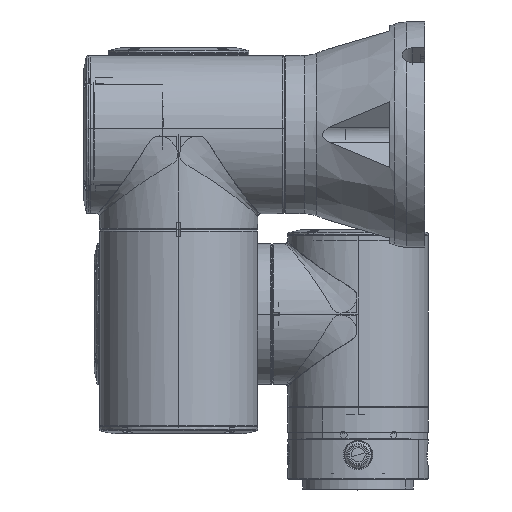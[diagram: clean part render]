
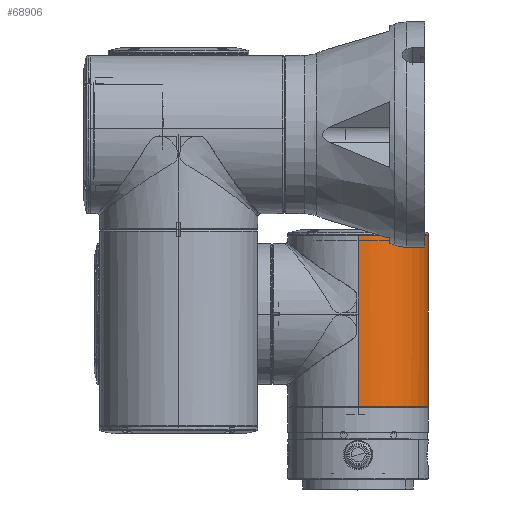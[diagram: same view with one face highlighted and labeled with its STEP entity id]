
A CAD part, left-side view. The second image highlights one B-rep face of the part: STEP entity #68906.
In plain terms, the highlighted cylindrical face has radius 40 mm (diameter 80 mm), a partial arc.
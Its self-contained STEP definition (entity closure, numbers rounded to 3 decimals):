
#900 = ORIENTED_EDGE ( 'NONE', *, *, #42850, .F. ) ;
#1611 = CIRCLE ( 'NONE', #133475, 40. ) ;
#2392 = CARTESIAN_POINT ( 'NONE',  ( 0., 40.2, -40. ) ) ;
#3112 = CARTESIAN_POINT ( 'NONE',  ( -39.987, -8.8, 1.005 ) ) ;
#4817 = CARTESIAN_POINT ( 'NONE',  ( 0., -8.8, 0. ) ) ;
#5763 = VERTEX_POINT ( 'NONE', #2392 ) ;
#6766 = CARTESIAN_POINT ( 'NONE',  ( 0., -12.298, 0. ) ) ;
#9418 = EDGE_CURVE ( 'NONE', #53167, #60283, #79606, .T. ) ;
#10230 = LINE ( 'NONE', #42651, #34823 ) ;
#10646 = AXIS2_PLACEMENT_3D ( 'NONE', #4817, #14915, #110303 ) ;
#12782 = DIRECTION ( 'NONE',  ( 0., 1., 0. ) ) ;
#14915 = DIRECTION ( 'NONE',  ( 0., -1., 0. ) ) ;
#15861 = CARTESIAN_POINT ( 'NONE',  ( -39.987, -12.298, -1.005 ) ) ;
#16222 = ORIENTED_EDGE ( 'NONE', *, *, #46384, .T. ) ;
#16875 = CARTESIAN_POINT ( 'NONE',  ( 0., -12.8, 40. ) ) ;
#18075 = AXIS2_PLACEMENT_3D ( 'NONE', #6766, #26970, #121458 ) ;
#19429 = LINE ( 'NONE', #33392, #116271 ) ;
#19647 = VERTEX_POINT ( 'NONE', #121248 ) ;
#21999 = ORIENTED_EDGE ( 'NONE', *, *, #9418, .T. ) ;
#23761 = VECTOR ( 'NONE', #113685, 1000. ) ;
#25602 = VERTEX_POINT ( 'NONE', #3112 ) ;
#25654 = CARTESIAN_POINT ( 'NONE',  ( 0., -12.8, -40. ) ) ;
#25717 = VECTOR ( 'NONE', #111827, 1000. ) ;
#26970 = DIRECTION ( 'NONE',  ( 0., 1., 0. ) ) ;
#27232 = EDGE_LOOP ( 'NONE', ( #45370, #36988, #108144, #44276, #16222, #122900, #21999, #125246, #117844, #900 ) ) ;
#31924 = LINE ( 'NONE', #100377, #45026 ) ;
#32837 = VERTEX_POINT ( 'NONE', #76612 ) ;
#33392 = CARTESIAN_POINT ( 'NONE',  ( -39.987, -12.8, 1.005 ) ) ;
#34823 = VECTOR ( 'NONE', #12782, 1000. ) ;
#36227 = DIRECTION ( 'NONE',  ( 0., 1., 0. ) ) ;
#36912 = EDGE_CURVE ( 'NONE', #32837, #53167, #120753, .T. ) ;
#36988 = ORIENTED_EDGE ( 'NONE', *, *, #131354, .T. ) ;
#37061 = VERTEX_POINT ( 'NONE', #72238 ) ;
#38136 = EDGE_CURVE ( 'NONE', #37061, #5763, #117314, .T. ) ;
#38534 = FACE_OUTER_BOUND ( 'NONE', #27232, .T. ) ;
#42498 = AXIS2_PLACEMENT_3D ( 'NONE', #64911, #55696, #85586 ) ;
#42651 = CARTESIAN_POINT ( 'NONE',  ( 0., -12.8, -40. ) ) ;
#42850 = EDGE_CURVE ( 'NONE', #5763, #91747, #10230, .T. ) ;
#44276 = ORIENTED_EDGE ( 'NONE', *, *, #104922, .F. ) ;
#45026 = VECTOR ( 'NONE', #69185, 1000. ) ;
#45370 = ORIENTED_EDGE ( 'NONE', *, *, #38136, .F. ) ;
#46384 = EDGE_CURVE ( 'NONE', #25602, #32837, #19429, .T. ) ;
#53167 = VERTEX_POINT ( 'NONE', #117331 ) ;
#54476 = DIRECTION ( 'NONE',  ( 0., -1., 0. ) ) ;
#55696 = DIRECTION ( 'NONE',  ( 0., 1., 0. ) ) ;
#58627 = EDGE_CURVE ( 'NONE', #123727, #91747, #1611, .T. ) ;
#60283 = VERTEX_POINT ( 'NONE', #136090 ) ;
#64911 = CARTESIAN_POINT ( 'NONE',  ( 0., -12.8, 0. ) ) ;
#67033 = EDGE_CURVE ( 'NONE', #90034, #19647, #31924, .T. ) ;
#68906 = ADVANCED_FACE ( 'NONE', ( #38534 ), #84466, .T. ) ;
#69185 = DIRECTION ( 'NONE',  ( 0., 1., 0. ) ) ;
#71411 = VECTOR ( 'NONE', #36227, 1000. ) ;
#72238 = CARTESIAN_POINT ( 'NONE',  ( 0., -12.298, -40. ) ) ;
#76612 = CARTESIAN_POINT ( 'NONE',  ( -39.987, -12.298, 1.005 ) ) ;
#79606 = LINE ( 'NONE', #102220, #23761 ) ;
#83448 = CARTESIAN_POINT ( 'NONE',  ( 0., 84.7, -40. ) ) ;
#84233 = AXIS2_PLACEMENT_3D ( 'NONE', #103875, #125388, #134116 ) ;
#84466 = CYLINDRICAL_SURFACE ( 'NONE', #42498, 40. ) ;
#85586 = DIRECTION ( 'NONE',  ( 0., 0., 1. ) ) ;
#90034 = VERTEX_POINT ( 'NONE', #15861 ) ;
#91747 = VERTEX_POINT ( 'NONE', #83448 ) ;
#93031 = CIRCLE ( 'NONE', #18075, 40. ) ;
#93064 = LINE ( 'NONE', #16875, #25717 ) ;
#100377 = CARTESIAN_POINT ( 'NONE',  ( -39.987, -12.8, -1.005 ) ) ;
#102220 = CARTESIAN_POINT ( 'NONE',  ( 0., -12.8, 40. ) ) ;
#103875 = CARTESIAN_POINT ( 'NONE',  ( 0., -12.298, 0. ) ) ;
#104922 = EDGE_CURVE ( 'NONE', #25602, #19647, #131161, .T. ) ;
#108144 = ORIENTED_EDGE ( 'NONE', *, *, #67033, .T. ) ;
#110303 = DIRECTION ( 'NONE',  ( 0., 0., 1. ) ) ;
#111827 = DIRECTION ( 'NONE',  ( 0., 1., 0. ) ) ;
#113685 = DIRECTION ( 'NONE',  ( 0., 1., 0. ) ) ;
#115912 = CARTESIAN_POINT ( 'NONE',  ( 0., 84.7, 0. ) ) ;
#116271 = VECTOR ( 'NONE', #54476, 1000. ) ;
#117238 = DIRECTION ( 'NONE',  ( 0., -1., 0. ) ) ;
#117314 = LINE ( 'NONE', #25654, #71411 ) ;
#117331 = CARTESIAN_POINT ( 'NONE',  ( 0., -12.298, 40. ) ) ;
#117844 = ORIENTED_EDGE ( 'NONE', *, *, #58627, .T. ) ;
#120753 = CIRCLE ( 'NONE', #84233, 40. ) ;
#121248 = CARTESIAN_POINT ( 'NONE',  ( -39.987, -8.8, -1.005 ) ) ;
#121458 = DIRECTION ( 'NONE',  ( 0., 0., 1. ) ) ;
#122900 = ORIENTED_EDGE ( 'NONE', *, *, #36912, .T. ) ;
#123727 = VERTEX_POINT ( 'NONE', #127501 ) ;
#124155 = EDGE_CURVE ( 'NONE', #60283, #123727, #93064, .T. ) ;
#125246 = ORIENTED_EDGE ( 'NONE', *, *, #124155, .T. ) ;
#125388 = DIRECTION ( 'NONE',  ( 0., 1., 0. ) ) ;
#126443 = DIRECTION ( 'NONE',  ( 0., 0., 1. ) ) ;
#127501 = CARTESIAN_POINT ( 'NONE',  ( 0., 84.7, 40. ) ) ;
#131161 = CIRCLE ( 'NONE', #10646, 40. ) ;
#131354 = EDGE_CURVE ( 'NONE', #37061, #90034, #93031, .T. ) ;
#133475 = AXIS2_PLACEMENT_3D ( 'NONE', #115912, #117238, #126443 ) ;
#134116 = DIRECTION ( 'NONE',  ( 0., 0., 1. ) ) ;
#136090 = CARTESIAN_POINT ( 'NONE',  ( 0., 40.2, 40. ) ) ;
